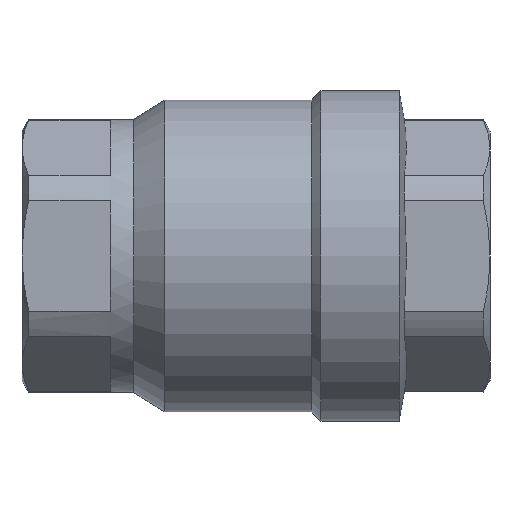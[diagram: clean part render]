
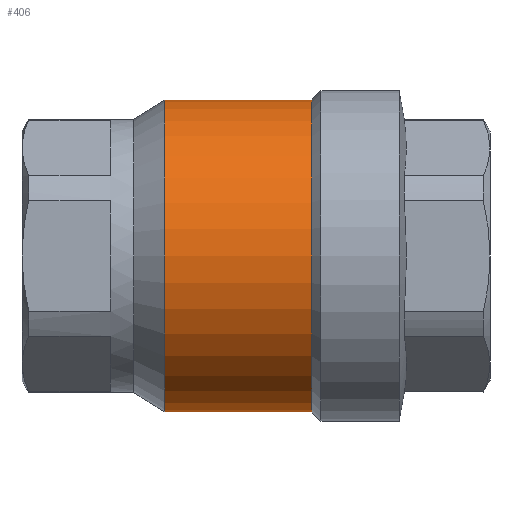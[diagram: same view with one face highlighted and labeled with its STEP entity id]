
A CAD part, front view. The second image highlights one B-rep face of the part: STEP entity #406.
In plain terms, the highlighted cylindrical face has radius 30 mm (diameter 60 mm), a partial arc.
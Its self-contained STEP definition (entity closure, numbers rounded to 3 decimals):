
#74 = VERTEX_POINT ( 'NONE', #1884 ) ;
#137 = DIRECTION ( 'NONE',  ( -1., 0., 0. ) ) ;
#158 = AXIS2_PLACEMENT_3D ( 'NONE', #2848, #1209, #3126 ) ;
#174 = CARTESIAN_POINT ( 'NONE',  ( -55.019, 0., 0. ) ) ;
#222 = EDGE_CURVE ( 'NONE', #2579, #674, #2436, .T. ) ;
#406 = ADVANCED_FACE ( 'NONE', ( #828 ), #746, .T. ) ;
#412 = DIRECTION ( 'NONE',  ( -1., 0., 0. ) ) ;
#564 = AXIS2_PLACEMENT_3D ( 'NONE', #174, #2726, #1898 ) ;
#664 = EDGE_CURVE ( 'NONE', #2579, #74, #1736, .T. ) ;
#674 = VERTEX_POINT ( 'NONE', #1832 ) ;
#746 = CYLINDRICAL_SURFACE ( 'NONE', #564, 30. ) ;
#828 = FACE_OUTER_BOUND ( 'NONE', #2958, .T. ) ;
#1179 = ORIENTED_EDGE ( 'NONE', *, *, #222, .T. ) ;
#1209 = DIRECTION ( 'NONE',  ( -1., 0., 0. ) ) ;
#1290 = EDGE_CURVE ( 'NONE', #674, #1524, #2375, .T. ) ;
#1395 = CARTESIAN_POINT ( 'NONE',  ( -17.5, 0., 30. ) ) ;
#1524 = VERTEX_POINT ( 'NONE', #1395 ) ;
#1736 = LINE ( 'NONE', #2920, #2472 ) ;
#1832 = CARTESIAN_POINT ( 'NONE',  ( 10.75, 0., 30. ) ) ;
#1865 = CARTESIAN_POINT ( 'NONE',  ( 10.75, 0., 0. ) ) ;
#1884 = CARTESIAN_POINT ( 'NONE',  ( -17.5, 0., -30. ) ) ;
#1898 = DIRECTION ( 'NONE',  ( 0., 0., 1. ) ) ;
#1919 = ORIENTED_EDGE ( 'NONE', *, *, #1290, .T. ) ;
#2023 = CARTESIAN_POINT ( 'NONE',  ( 10.75, 0., -30. ) ) ;
#2126 = DIRECTION ( 'NONE',  ( 0., 0., 1. ) ) ;
#2288 = VECTOR ( 'NONE', #3495, 1000. ) ;
#2374 = CARTESIAN_POINT ( 'NONE',  ( -55.019, 0., 30. ) ) ;
#2375 = LINE ( 'NONE', #2374, #2288 ) ;
#2436 = CIRCLE ( 'NONE', #2734, 30. ) ;
#2472 = VECTOR ( 'NONE', #412, 1000. ) ;
#2579 = VERTEX_POINT ( 'NONE', #2023 ) ;
#2726 = DIRECTION ( 'NONE',  ( -1., 0., 0. ) ) ;
#2734 = AXIS2_PLACEMENT_3D ( 'NONE', #1865, #137, #2126 ) ;
#2848 = CARTESIAN_POINT ( 'NONE',  ( -17.5, 0., 0. ) ) ;
#2920 = CARTESIAN_POINT ( 'NONE',  ( -55.019, 0., -30. ) ) ;
#2958 = EDGE_LOOP ( 'NONE', ( #3305, #1179, #1919, #3377 ) ) ;
#2999 = EDGE_CURVE ( 'NONE', #74, #1524, #3547, .T. ) ;
#3126 = DIRECTION ( 'NONE',  ( 0., 0., 1. ) ) ;
#3305 = ORIENTED_EDGE ( 'NONE', *, *, #664, .F. ) ;
#3377 = ORIENTED_EDGE ( 'NONE', *, *, #2999, .F. ) ;
#3495 = DIRECTION ( 'NONE',  ( -1., 0., 0. ) ) ;
#3547 = CIRCLE ( 'NONE', #158, 30. ) ;
